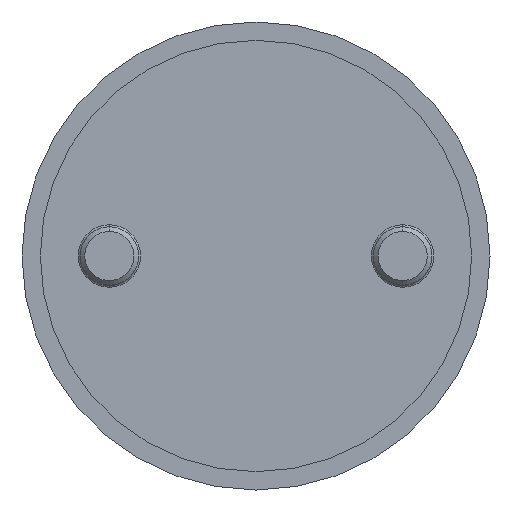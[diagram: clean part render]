
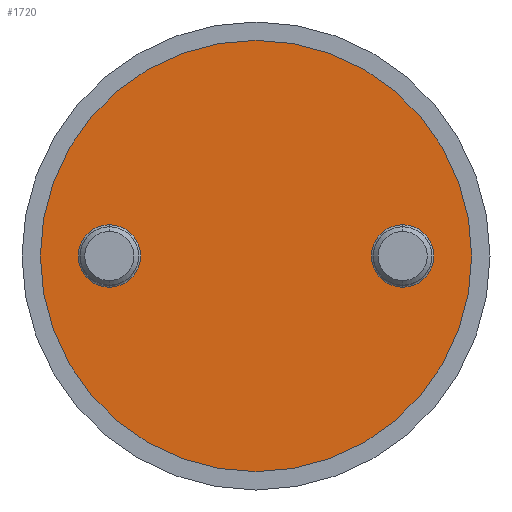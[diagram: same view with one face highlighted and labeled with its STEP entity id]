
A CAD part, front view. The second image highlights one B-rep face of the part: STEP entity #1720.
In plain terms, the highlighted planar face has unit normal (0, -1, 0).
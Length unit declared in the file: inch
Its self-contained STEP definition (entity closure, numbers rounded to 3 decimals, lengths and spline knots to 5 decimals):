
#1265=CARTESIAN_POINT('',(0.,0.25,0.));
#1266=DIRECTION('',(0.,1.,0.));
#1267=DIRECTION('',(-1.,0.,0.));
#1268=AXIS2_PLACEMENT_3D('',#1265,#1266,#1267);
#1270=CARTESIAN_POINT('',(0.,0.25,0.));
#1271=DIRECTION('',(0.,1.,0.));
#1272=DIRECTION('',(1.,0.,0.));
#1273=AXIS2_PLACEMENT_3D('',#1270,#1271,#1272);
#1275=CARTESIAN_POINT('',(-0.94,0.25,0.));
#1276=DIRECTION('',(0.,-1.,0.));
#1277=DIRECTION('',(-1.,0.,0.));
#1278=AXIS2_PLACEMENT_3D('',#1275,#1276,#1277);
#1280=CARTESIAN_POINT('',(-0.94,0.25,0.));
#1281=DIRECTION('',(0.,-1.,0.));
#1282=DIRECTION('',(1.,0.,0.));
#1283=AXIS2_PLACEMENT_3D('',#1280,#1281,#1282);
#1285=CARTESIAN_POINT('',(0.94,0.25,0.));
#1286=DIRECTION('',(0.,-1.,0.));
#1287=DIRECTION('',(-1.,0.,0.));
#1288=AXIS2_PLACEMENT_3D('',#1285,#1286,#1287);
#1290=CARTESIAN_POINT('',(0.94,0.25,0.));
#1291=DIRECTION('',(0.,-1.,0.));
#1292=DIRECTION('',(1.,0.,0.));
#1293=AXIS2_PLACEMENT_3D('',#1290,#1291,#1292);
#1563=CARTESIAN_POINT('',(1.3825,0.25,0.));
#1564=CARTESIAN_POINT('',(-1.3825,0.25,0.));
#1565=VERTEX_POINT('',#1563);
#1566=VERTEX_POINT('',#1564);
#1567=CARTESIAN_POINT('',(-1.14,0.25,0.));
#1568=CARTESIAN_POINT('',(-0.74,0.25,0.));
#1569=VERTEX_POINT('',#1567);
#1570=VERTEX_POINT('',#1568);
#1571=CARTESIAN_POINT('',(0.74,0.25,0.));
#1572=CARTESIAN_POINT('',(1.14,0.25,0.));
#1573=VERTEX_POINT('',#1571);
#1574=VERTEX_POINT('',#1572);
#1699=CARTESIAN_POINT('',(0.,0.25,0.));
#1700=DIRECTION('',(0.,1.,0.));
#1701=DIRECTION('',(1.,0.,0.));
#1702=AXIS2_PLACEMENT_3D('',#1699,#1700,#1701);
#1703=PLANE('',#1702);
#1704=ORIENTED_EDGE('',*,*,#1692,.T.);
#1705=ORIENTED_EDGE('',*,*,#1681,.T.);
#1706=EDGE_LOOP('',(#1704,#1705));
#1707=FACE_OUTER_BOUND('',#1706,.F.);
#1709=ORIENTED_EDGE('',*,*,#1708,.T.);
#1711=ORIENTED_EDGE('',*,*,#1710,.T.);
#1712=EDGE_LOOP('',(#1709,#1711));
#1713=FACE_BOUND('',#1712,.F.);
#1715=ORIENTED_EDGE('',*,*,#1714,.T.);
#1717=ORIENTED_EDGE('',*,*,#1716,.T.);
#1718=EDGE_LOOP('',(#1715,#1717));
#1719=FACE_BOUND('',#1718,.F.);
#1720=ADVANCED_FACE('',(#1707,#1713,#1719),#1703,.F.);
#1269=CIRCLE('',#1268,1.3825);
#1274=CIRCLE('',#1273,1.3825);
#1279=CIRCLE('',#1278,0.2);
#1284=CIRCLE('',#1283,0.2);
#1289=CIRCLE('',#1288,0.2);
#1294=CIRCLE('',#1293,0.2);
#1681=EDGE_CURVE('',#1565,#1566,#1274,.T.);
#1692=EDGE_CURVE('',#1566,#1565,#1269,.T.);
#1708=EDGE_CURVE('',#1569,#1570,#1279,.T.);
#1710=EDGE_CURVE('',#1570,#1569,#1284,.T.);
#1714=EDGE_CURVE('',#1573,#1574,#1289,.T.);
#1716=EDGE_CURVE('',#1574,#1573,#1294,.T.);
